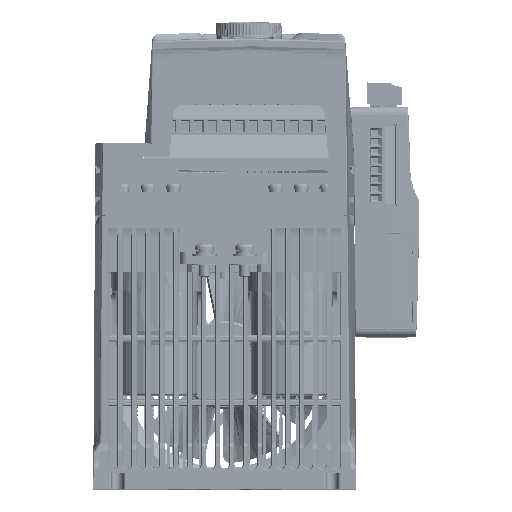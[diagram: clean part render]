
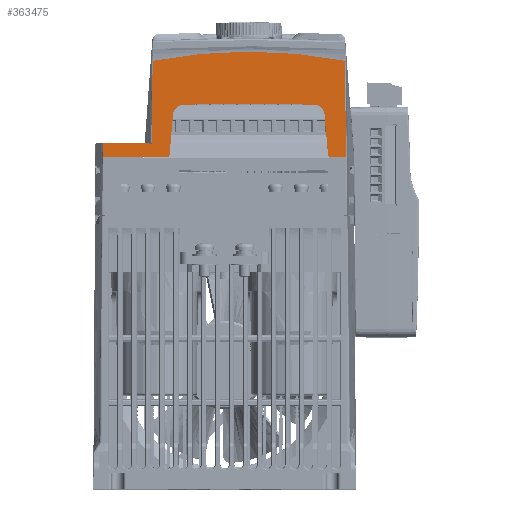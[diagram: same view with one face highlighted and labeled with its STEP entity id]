
A CAD part, top view. The second image highlights one B-rep face of the part: STEP entity #363475.
In plain terms, the highlighted planar face has unit normal (0, 0, 1).
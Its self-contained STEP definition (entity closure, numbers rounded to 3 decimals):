
#347625=CARTESIAN_POINT('',(0.,163.,133.5));
#347633=CARTESIAN_POINT('',(-36.205,128.6,133.5));
#347634=CARTESIAN_POINT('',(-36.191,129.852,133.5));
#347635=CARTESIAN_POINT('',(-36.164,132.277,133.5));
#347636=CARTESIAN_POINT('',(-36.126,135.638,133.5));
#347637=CARTESIAN_POINT('',(-36.089,138.832,133.5));
#347638=CARTESIAN_POINT('',(-36.054,141.931,
133.5));
#347639=CARTESIAN_POINT('',(-36.017,145.024,
133.5));
#347640=CARTESIAN_POINT('',(-35.979,148.213,
133.5));
#347641=CARTESIAN_POINT('',(-35.938,151.648,
133.5));
#347642=CARTESIAN_POINT('',(-35.891,155.371,
133.5));
#347643=CARTESIAN_POINT('',(-35.856,158.127,
133.5));
#347644=CARTESIAN_POINT('',(-35.837,159.567,
133.5));
#347649=CARTESIAN_POINT('',(0.,163.,133.5));
#347650=CARTESIAN_POINT('',(-12.018,163.,133.5));
#347651=CARTESIAN_POINT('',(-24.037,161.849,
133.5));
#347652=CARTESIAN_POINT('',(-35.837,159.567,
133.5));
#347657=CARTESIAN_POINT('',(0.,163.,133.5));
#347658=CARTESIAN_POINT('',(12.018,163.,133.5));
#347659=CARTESIAN_POINT('',(24.037,161.849,
133.5));
#347660=CARTESIAN_POINT('',(35.837,159.567,
133.5));
#347665=CARTESIAN_POINT('',(36.261,123.6,133.5));
#347666=CARTESIAN_POINT('',(36.238,125.641,133.5));
#347667=CARTESIAN_POINT('',(36.195,129.535,133.5));
#347668=CARTESIAN_POINT('',(36.136,134.785,133.5));
#347669=CARTESIAN_POINT('',(36.081,139.536,133.5));
#347670=CARTESIAN_POINT('',(36.031,143.862,133.5));
#347671=CARTESIAN_POINT('',(35.984,147.854,
133.5));
#347672=CARTESIAN_POINT('',(35.938,151.586,
133.5));
#347673=CARTESIAN_POINT('',(35.892,155.342,
133.5));
#347674=CARTESIAN_POINT('',(35.856,158.127,
133.5));
#347675=CARTESIAN_POINT('',(35.837,159.567,
133.5));
#347680=CARTESIAN_POINT('',(30.541,124.6,133.5));
#347681=DIRECTION('',(0.,0.,1.));
#347682=DIRECTION('',(-0.996,-0.087,0.));
#347683=AXIS2_PLACEMENT_3D('',#347680,#347681,#347682);
#347688=DIRECTION('',(-0.087,0.996,0.));
#347689=VECTOR('',#347688,15.089);
#347690=CARTESIAN_POINT('',(29.545,124.513,133.5));
#347691=LINE('',#347690,#347689);
#347695=CARTESIAN_POINT('',(0.,-588.067,133.5));
#347696=DIRECTION('',(0.,0.,1.));
#347697=DIRECTION('',(0.033,0.999,0.));
#347698=AXIS2_PLACEMENT_3D('',#347695,#347696,#347697);
#347703=DIRECTION('',(-0.087,-0.996,0.));
#347704=VECTOR('',#347703,15.089);
#347705=CARTESIAN_POINT('',(-28.23,139.545,133.5));
#347706=LINE('',#347705,#347704);
#347710=CARTESIAN_POINT('',(-30.541,124.6,133.5));
#347711=DIRECTION('',(0.,0.,1.));
#347712=DIRECTION('',(0.,-1.,0.));
#347713=AXIS2_PLACEMENT_3D('',#347710,#347711,#347712);
#347718=CARTESIAN_POINT('',(-54.261,123.6,133.5));
#347719=CARTESIAN_POINT('',(-54.255,124.135,133.5));
#347720=CARTESIAN_POINT('',(-54.243,125.232,133.5));
#347721=CARTESIAN_POINT('',(-54.224,126.938,133.5));
#347722=CARTESIAN_POINT('',(-54.21,128.167,133.5));
#347723=CARTESIAN_POINT('',(-54.203,128.8,133.5));
#347728=DIRECTION('',(-1.,0.,0.));
#347729=VECTOR('',#347728,16.9);
#347730=CARTESIAN_POINT('',(-37.303,128.8,133.5));
#347731=LINE('',#347730,#347729);
#347735=CARTESIAN_POINT('',(-37.303,128.8,133.5));
#347736=CARTESIAN_POINT('',(-37.303,128.733,133.5));
#347737=CARTESIAN_POINT('',(-37.303,128.667,133.5));
#347738=CARTESIAN_POINT('',(-37.303,128.6,133.5));
#347753=DIRECTION('',(-1.,0.,0.));
#347754=VECTOR('',#347753,1.098);
#347755=CARTESIAN_POINT('',(-36.205,128.6,133.5));
#347756=LINE('',#347755,#347754);
#348016=DIRECTION('',(1.,0.,0.));
#348017=VECTOR('',#348016,5.72);
#348018=CARTESIAN_POINT('',(30.541,123.6,133.5));
#348019=LINE('',#348018,#348017);
#348130=CARTESIAN_POINT('',(-54.261,123.6,133.5));
#348140=DIRECTION('',(1.,0.,0.));
#348141=VECTOR('',#348140,23.72);
#348142=CARTESIAN_POINT('',(-54.261,123.6,133.5));
#348143=LINE('',#348142,#348141);
#359656=CARTESIAN_POINT('',(-24.245,139.196,133.5));
#359657=DIRECTION('',(0.,0.,-1.));
#359658=DIRECTION('',(-0.996,0.087,0.));
#359659=AXIS2_PLACEMENT_3D('',#359656,#359657,#359658);
#359686=CARTESIAN_POINT('',(24.245,139.196,133.5));
#359687=DIRECTION('',(0.,0.,-1.));
#359688=DIRECTION('',(0.033,0.999,0.));
#359689=AXIS2_PLACEMENT_3D('',#359686,#359687,#359688);
#360425=CARTESIAN_POINT('',(24.379,143.194,133.5));
#360427=VERTEX_POINT('',#360425);
#360429=CARTESIAN_POINT('',(28.23,139.545,133.5));
#360431=VERTEX_POINT('',#360429);
#360433=CARTESIAN_POINT('',(-28.23,139.545,133.5));
#360435=VERTEX_POINT('',#360433);
#360437=CARTESIAN_POINT('',(-24.379,143.194,133.5));
#360439=VERTEX_POINT('',#360437);
#360861=CARTESIAN_POINT('',(29.545,124.513,133.5));
#360863=VERTEX_POINT('',#360861);
#360865=CARTESIAN_POINT('',(30.541,123.6,133.5));
#360866=VERTEX_POINT('',#360865);
#360867=CARTESIAN_POINT('',(-30.541,123.6,133.5));
#360868=CARTESIAN_POINT('',(-29.545,124.513,133.5));
#360869=VERTEX_POINT('',#360867);
#360870=VERTEX_POINT('',#360868);
#361248=VERTEX_POINT('',#347625);
#361260=VERTEX_POINT('',#347652);
#361261=VERTEX_POINT('',#347660);
#361265=CARTESIAN_POINT('',(36.261,123.6,133.5));
#361266=VERTEX_POINT('',#361265);
#361279=VERTEX_POINT('',#347633);
#361309=VERTEX_POINT('',#348130);
#361312=CARTESIAN_POINT('',(-37.303,128.6,133.5));
#361313=VERTEX_POINT('',#361312);
#361331=CARTESIAN_POINT('',(-37.303,128.8,133.5));
#361332=VERTEX_POINT('',#361331);
#361333=CARTESIAN_POINT('',(-54.203,128.8,133.5));
#361334=VERTEX_POINT('',#361333);
#363435=CARTESIAN_POINT('',(-40.,0.,133.5));
#363436=DIRECTION('',(0.,0.,1.));
#363437=DIRECTION('',(1.,0.,0.));
#363438=AXIS2_PLACEMENT_3D('',#363435,#363436,#363437);
#363439=PLANE('',#363438);
#363441=ORIENTED_EDGE('',*,*,#363440,.F.);
#363443=ORIENTED_EDGE('',*,*,#363442,.T.);
#363444=ORIENTED_EDGE('',*,*,#363423,.F.);
#363446=ORIENTED_EDGE('',*,*,#363445,.T.);
#363448=ORIENTED_EDGE('',*,*,#363447,.F.);
#363450=ORIENTED_EDGE('',*,*,#363449,.F.);
#363452=ORIENTED_EDGE('',*,*,#363451,.F.);
#363454=ORIENTED_EDGE('',*,*,#363453,.T.);
#363456=ORIENTED_EDGE('',*,*,#363455,.F.);
#363458=ORIENTED_EDGE('',*,*,#363457,.T.);
#363460=ORIENTED_EDGE('',*,*,#363459,.F.);
#363462=ORIENTED_EDGE('',*,*,#363461,.T.);
#363464=ORIENTED_EDGE('',*,*,#363463,.F.);
#363466=ORIENTED_EDGE('',*,*,#363465,.F.);
#363468=ORIENTED_EDGE('',*,*,#363467,.T.);
#363470=ORIENTED_EDGE('',*,*,#363469,.F.);
#363472=ORIENTED_EDGE('',*,*,#363471,.T.);
#363473=EDGE_LOOP('',(#363441,#363443,#363444,#363446,#363448,#363450,#363452,
#363454,#363456,#363458,#363460,#363462,#363464,#363466,#363468,#363470,
#363472));
#363474=FACE_OUTER_BOUND('',#363473,.F.);
#347645=B_SPLINE_CURVE_WITH_KNOTS('',3,(#347633,#347634,#347635,#347636,#347637,
#347638,#347639,#347640,#347641,#347642,#347643,#347644),.UNSPECIFIED.,.F.,.F.,(
4,1,1,1,1,1,1,1,1,4),(0.,0.111,0.222,
0.333,0.444,0.556,0.667,
0.778,0.889,1.),.UNSPECIFIED.);
#347653=B_SPLINE_CURVE_WITH_KNOTS('',3,(#347649,#347650,#347651,#347652),
.UNSPECIFIED.,.F.,.F.,(4,4),(0.,1.),.UNSPECIFIED.);
#347661=B_SPLINE_CURVE_WITH_KNOTS('',3,(#347657,#347658,#347659,#347660),
.UNSPECIFIED.,.F.,.F.,(4,4),(0.,1.),.UNSPECIFIED.);
#347676=B_SPLINE_CURVE_WITH_KNOTS('',3,(#347665,#347666,#347667,#347668,#347669,
#347670,#347671,#347672,#347673,#347674,#347675),.UNSPECIFIED.,.F.,.F.,(4,1,1,1,
1,1,1,1,4),(0.,0.125,0.25,0.375,0.5,0.625,0.75,0.875,1.),
.UNSPECIFIED.);
#347684=CIRCLE('',#347683,1.);
#347699=CIRCLE('',#347698,731.667);
#347714=CIRCLE('',#347713,1.);
#347724=B_SPLINE_CURVE_WITH_KNOTS('',3,(#347718,#347719,#347720,#347721,#347722,
#347723),.UNSPECIFIED.,.F.,.F.,(4,1,1,4),(0.,0.333,
0.667,1.),.UNSPECIFIED.);
#347739=B_SPLINE_CURVE_WITH_KNOTS('',3,(#347735,#347736,#347737,#347738),
.UNSPECIFIED.,.F.,.F.,(4,4),(0.,1.),.UNSPECIFIED.);
#359660=CIRCLE('',#359659,4.);
#359690=CIRCLE('',#359689,4.);
#363423=EDGE_CURVE('',#361248,#361260,#347653,.T.);
#363440=EDGE_CURVE('',#361279,#361313,#347756,.T.);
#363442=EDGE_CURVE('',#361279,#361260,#347645,.T.);
#363445=EDGE_CURVE('',#361248,#361261,#347661,.T.);
#363447=EDGE_CURVE('',#361266,#361261,#347676,.T.);
#363449=EDGE_CURVE('',#360866,#361266,#348019,.T.);
#363451=EDGE_CURVE('',#360863,#360866,#347684,.T.);
#363453=EDGE_CURVE('',#360863,#360431,#347691,.T.);
#363455=EDGE_CURVE('',#360427,#360431,#359690,.T.);
#363457=EDGE_CURVE('',#360427,#360439,#347699,.T.);
#363459=EDGE_CURVE('',#360435,#360439,#359660,.T.);
#363461=EDGE_CURVE('',#360435,#360870,#347706,.T.);
#363463=EDGE_CURVE('',#360869,#360870,#347714,.T.);
#363465=EDGE_CURVE('',#361309,#360869,#348143,.T.);
#363467=EDGE_CURVE('',#361309,#361334,#347724,.T.);
#363469=EDGE_CURVE('',#361332,#361334,#347731,.T.);
#363471=EDGE_CURVE('',#361332,#361313,#347739,.T.);
#363475=ADVANCED_FACE('',(#363474),#363439,.T.);
